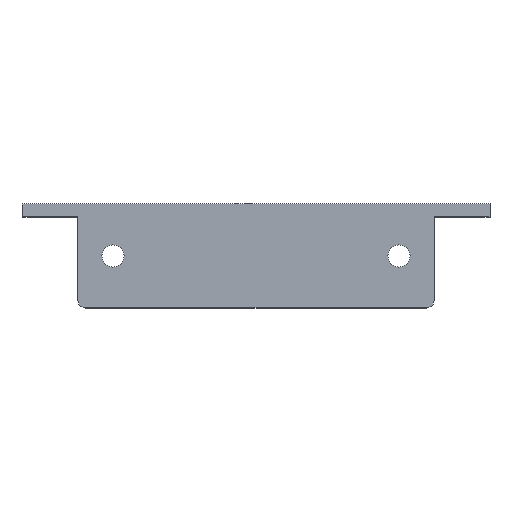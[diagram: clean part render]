
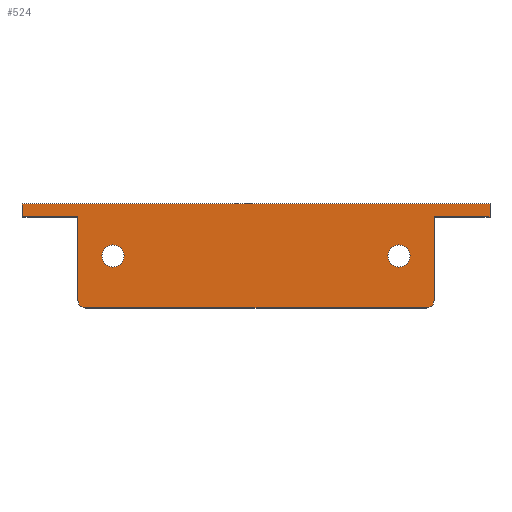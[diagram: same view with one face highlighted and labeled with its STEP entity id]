
A CAD part, top view. The second image highlights one B-rep face of the part: STEP entity #524.
In plain terms, the highlighted planar face has unit normal (0, 0, 1).
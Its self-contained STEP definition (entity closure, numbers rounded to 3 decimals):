
#2 = CARTESIAN_POINT ( 'NONE',  ( 0., 35., 0. ) ) ;
#12 = DIRECTION ( 'NONE',  ( 0., 0., 1. ) ) ;
#13 = ORIENTED_EDGE ( 'NONE', *, *, #674, .F. ) ;
#18 = DIRECTION ( 'NONE',  ( 0., 0., 1. ) ) ;
#21 = CARTESIAN_POINT ( 'NONE',  ( 21.5, 0., 0. ) ) ;
#29 = ORIENTED_EDGE ( 'NONE', *, *, #71, .T. ) ;
#40 = DIRECTION ( 'NONE',  ( 1., 0., 0. ) ) ;
#55 = LINE ( 'NONE', #365, #319 ) ;
#56 = CARTESIAN_POINT ( 'NONE',  ( 35., 20., 0. ) ) ;
#65 = CARTESIAN_POINT ( 'NONE',  ( 180., 40., 0. ) ) ;
#71 = EDGE_CURVE ( 'NONE', #382, #542, #739, .T. ) ;
#74 = CARTESIAN_POINT ( 'NONE',  ( 180., 0., 0. ) ) ;
#83 = CARTESIAN_POINT ( 'NONE',  ( 158.5, 35., 0. ) ) ;
#91 = VERTEX_POINT ( 'NONE', #368 ) ;
#106 = VERTEX_POINT ( 'NONE', #127 ) ;
#107 = EDGE_LOOP ( 'NONE', ( #653, #13 ) ) ;
#121 = DIRECTION ( 'NONE',  ( -1., 0., 0. ) ) ;
#124 = AXIS2_PLACEMENT_3D ( 'NONE', #56, #548, #40 ) ;
#126 = ORIENTED_EDGE ( 'NONE', *, *, #598, .T. ) ;
#127 = CARTESIAN_POINT ( 'NONE',  ( 155.5, 0., 0. ) ) ;
#129 = CARTESIAN_POINT ( 'NONE',  ( 0., 35., 0. ) ) ;
#131 = DIRECTION ( 'NONE',  ( 1., 0., 0. ) ) ;
#142 = CARTESIAN_POINT ( 'NONE',  ( 0., 0., 0. ) ) ;
#152 = CIRCLE ( 'NONE', #389, 4.25 ) ;
#168 = VERTEX_POINT ( 'NONE', #65 ) ;
#191 = DIRECTION ( 'NONE',  ( 0., 1., 0. ) ) ;
#207 = CARTESIAN_POINT ( 'NONE',  ( 180., 35., 0. ) ) ;
#209 = ORIENTED_EDGE ( 'NONE', *, *, #538, .F. ) ;
#210 = FACE_OUTER_BOUND ( 'NONE', #312, .T. ) ;
#218 = DIRECTION ( 'NONE',  ( -1., 0., 0. ) ) ;
#228 = VECTOR ( 'NONE', #266, 1000. ) ;
#231 = CARTESIAN_POINT ( 'NONE',  ( 30.75, 20., 0. ) ) ;
#234 = DIRECTION ( 'NONE',  ( -1., 0., 0. ) ) ;
#250 = CARTESIAN_POINT ( 'NONE',  ( 158.5, 0., 0. ) ) ;
#255 = DIRECTION ( 'NONE',  ( 0., 1., 0. ) ) ;
#260 = VERTEX_POINT ( 'NONE', #695 ) ;
#264 = DIRECTION ( 'NONE',  ( 0., 1., 0. ) ) ;
#265 = ORIENTED_EDGE ( 'NONE', *, *, #350, .F. ) ;
#266 = DIRECTION ( 'NONE',  ( 0., 1., 0. ) ) ;
#273 = DIRECTION ( 'NONE',  ( 0., 0., 1. ) ) ;
#275 = EDGE_CURVE ( 'NONE', #648, #744, #778, .T. ) ;
#282 = CIRCLE ( 'NONE', #124, 4.25 ) ;
#283 = CARTESIAN_POINT ( 'NONE',  ( 180., 0., 0. ) ) ;
#285 = EDGE_CURVE ( 'NONE', #683, #622, #387, .T. ) ;
#293 = AXIS2_PLACEMENT_3D ( 'NONE', #543, #743, #437 ) ;
#294 = VERTEX_POINT ( 'NONE', #207 ) ;
#299 = CARTESIAN_POINT ( 'NONE',  ( 24.5, 0., 0. ) ) ;
#306 = VECTOR ( 'NONE', #264, 1000. ) ;
#308 = DIRECTION ( 'NONE',  ( 1., 0., 0. ) ) ;
#312 = EDGE_LOOP ( 'NONE', ( #209, #786, #265, #126, #29, #597, #513, #523, #728, #461 ) ) ;
#316 = CARTESIAN_POINT ( 'NONE',  ( 145., 20., 0. ) ) ;
#319 = VECTOR ( 'NONE', #234, 1000. ) ;
#328 = LINE ( 'NONE', #21, #228 ) ;
#350 = EDGE_CURVE ( 'NONE', #106, #622, #431, .T. ) ;
#365 = CARTESIAN_POINT ( 'NONE',  ( 180., 40., 0. ) ) ;
#368 = CARTESIAN_POINT ( 'NONE',  ( 21.5, 35., 0. ) ) ;
#381 = CARTESIAN_POINT ( 'NONE',  ( 140.75, 20., 0. ) ) ;
#382 = VERTEX_POINT ( 'NONE', #737 ) ;
#383 = CARTESIAN_POINT ( 'NONE',  ( 24.5, 3., 0. ) ) ;
#387 = CIRCLE ( 'NONE', #478, 3. ) ;
#389 = AXIS2_PLACEMENT_3D ( 'NONE', #316, #12, #394 ) ;
#394 = DIRECTION ( 'NONE',  ( 1., 0., 0. ) ) ;
#422 = EDGE_CURVE ( 'NONE', #561, #602, #282, .T. ) ;
#424 = CARTESIAN_POINT ( 'NONE',  ( 149.25, 20., 0. ) ) ;
#425 = ORIENTED_EDGE ( 'NONE', *, *, #757, .F. ) ;
#431 = LINE ( 'NONE', #283, #788 ) ;
#437 = DIRECTION ( 'NONE',  ( 1., 0., 0. ) ) ;
#461 = ORIENTED_EDGE ( 'NONE', *, *, #733, .F. ) ;
#478 = AXIS2_PLACEMENT_3D ( 'NONE', #383, #273, #518 ) ;
#479 = AXIS2_PLACEMENT_3D ( 'NONE', #621, #731, #308 ) ;
#497 = AXIS2_PLACEMENT_3D ( 'NONE', #767, #638, #760 ) ;
#513 = ORIENTED_EDGE ( 'NONE', *, *, #793, .T. ) ;
#517 = FACE_BOUND ( 'NONE', #720, .T. ) ;
#518 = DIRECTION ( 'NONE',  ( 1., 0., 0. ) ) ;
#523 = ORIENTED_EDGE ( 'NONE', *, *, #603, .T. ) ;
#524 = ADVANCED_FACE ( 'NONE', ( #574, #517, #210 ), #578, .T. ) ;
#530 = AXIS2_PLACEMENT_3D ( 'NONE', #639, #18, #131 ) ;
#538 = EDGE_CURVE ( 'NONE', #683, #91, #328, .T. ) ;
#542 = VERTEX_POINT ( 'NONE', #83 ) ;
#543 = CARTESIAN_POINT ( 'NONE',  ( 35., 20., 0. ) ) ;
#546 = CARTESIAN_POINT ( 'NONE',  ( 21.5, 3., 0. ) ) ;
#548 = DIRECTION ( 'NONE',  ( 0., 0., 1. ) ) ;
#556 = CARTESIAN_POINT ( 'NONE',  ( 39.25, 20., 0. ) ) ;
#561 = VERTEX_POINT ( 'NONE', #556 ) ;
#574 = FACE_BOUND ( 'NONE', #107, .T. ) ;
#578 = PLANE ( 'NONE',  #497 ) ;
#581 = VERTEX_POINT ( 'NONE', #2 ) ;
#585 = VECTOR ( 'NONE', #191, 1000. ) ;
#597 = ORIENTED_EDGE ( 'NONE', *, *, #630, .F. ) ;
#598 = EDGE_CURVE ( 'NONE', #106, #382, #803, .T. ) ;
#602 = VERTEX_POINT ( 'NONE', #231 ) ;
#603 = EDGE_CURVE ( 'NONE', #168, #260, #55, .T. ) ;
#604 = CARTESIAN_POINT ( 'NONE',  ( 180., 35., 0. ) ) ;
#610 = LINE ( 'NONE', #604, #727 ) ;
#621 = CARTESIAN_POINT ( 'NONE',  ( 155.5, 3., 0. ) ) ;
#622 = VERTEX_POINT ( 'NONE', #299 ) ;
#628 = LINE ( 'NONE', #142, #306 ) ;
#630 = EDGE_CURVE ( 'NONE', #294, #542, #610, .T. ) ;
#637 = VECTOR ( 'NONE', #762, 1000. ) ;
#638 = DIRECTION ( 'NONE',  ( 0., 0., 1. ) ) ;
#639 = CARTESIAN_POINT ( 'NONE',  ( 145., 20., 0. ) ) ;
#648 = VERTEX_POINT ( 'NONE', #424 ) ;
#653 = ORIENTED_EDGE ( 'NONE', *, *, #422, .F. ) ;
#674 = EDGE_CURVE ( 'NONE', #602, #561, #688, .T. ) ;
#683 = VERTEX_POINT ( 'NONE', #546 ) ;
#685 = EDGE_CURVE ( 'NONE', #581, #260, #628, .T. ) ;
#688 = CIRCLE ( 'NONE', #293, 4.25 ) ;
#695 = CARTESIAN_POINT ( 'NONE',  ( 0., 40., 0. ) ) ;
#702 = VECTOR ( 'NONE', #255, 1000. ) ;
#720 = EDGE_LOOP ( 'NONE', ( #732, #425 ) ) ;
#727 = VECTOR ( 'NONE', #121, 1000. ) ;
#728 = ORIENTED_EDGE ( 'NONE', *, *, #685, .F. ) ;
#731 = DIRECTION ( 'NONE',  ( 0., 0., 1. ) ) ;
#732 = ORIENTED_EDGE ( 'NONE', *, *, #275, .F. ) ;
#733 = EDGE_CURVE ( 'NONE', #91, #581, #758, .T. ) ;
#737 = CARTESIAN_POINT ( 'NONE',  ( 158.5, 3., 0. ) ) ;
#739 = LINE ( 'NONE', #250, #702 ) ;
#743 = DIRECTION ( 'NONE',  ( 0., 0., 1. ) ) ;
#744 = VERTEX_POINT ( 'NONE', #381 ) ;
#754 = LINE ( 'NONE', #74, #585 ) ;
#757 = EDGE_CURVE ( 'NONE', #744, #648, #152, .T. ) ;
#758 = LINE ( 'NONE', #129, #637 ) ;
#760 = DIRECTION ( 'NONE',  ( 1., 0., 0. ) ) ;
#762 = DIRECTION ( 'NONE',  ( -1., 0., 0. ) ) ;
#767 = CARTESIAN_POINT ( 'NONE',  ( 180., 0., 0. ) ) ;
#778 = CIRCLE ( 'NONE', #530, 4.25 ) ;
#786 = ORIENTED_EDGE ( 'NONE', *, *, #285, .T. ) ;
#788 = VECTOR ( 'NONE', #218, 1000. ) ;
#793 = EDGE_CURVE ( 'NONE', #294, #168, #754, .T. ) ;
#803 = CIRCLE ( 'NONE', #479, 3. ) ;
